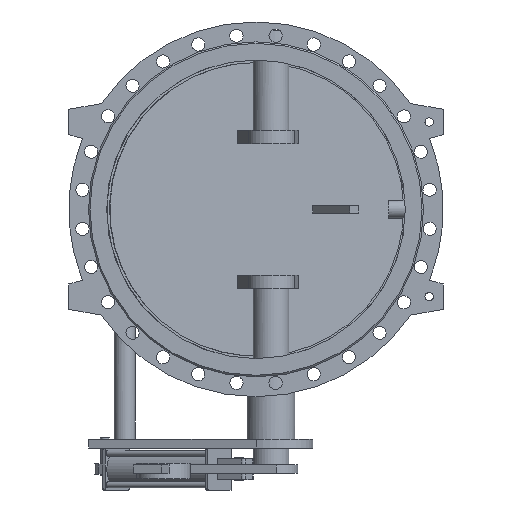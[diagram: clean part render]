
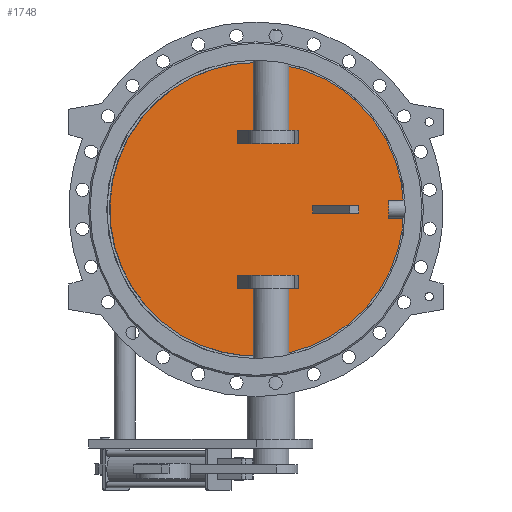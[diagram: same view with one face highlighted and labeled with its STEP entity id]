
A CAD part, front view. The second image highlights one B-rep face of the part: STEP entity #1748.
In plain terms, the highlighted planar face has unit normal (0.131, -0.991, 0).
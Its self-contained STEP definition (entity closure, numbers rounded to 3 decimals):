
#1748=ADVANCED_FACE('',(#3909,#3911,#3913,#3915),#3917,.T.);
#3909=FACE_BOUND('',#3910,.T.);
#3910=EDGE_LOOP('',(#5098));
#3911=FACE_BOUND('',#3912,.T.);
#3912=EDGE_LOOP('',(#5099,#5100,#5101,#5102));
#3913=FACE_BOUND('',#3914,.T.);
#3914=EDGE_LOOP('',(#5103,#5104,#5105,#5106));
#3915=FACE_BOUND('',#3916,.T.);
#3916=EDGE_LOOP('',(#5107,#5108,#5109,#5110));
#3917=PLANE('',#3918);
#3918=AXIS2_PLACEMENT_3D('',#3919,#3920,#3921);
#3919=CARTESIAN_POINT('',(-1.272,9.66,0.));
#3920=DIRECTION('',(0.131,-0.991,0.));
#3921=DIRECTION('',(0.,0.,-1.));
#5098=ORIENTED_EDGE('',*,*,#5631,.T.);
#5099=ORIENTED_EDGE('',*,*,#5648,.F.);
#5100=ORIENTED_EDGE('',*,*,#5649,.F.);
#5101=ORIENTED_EDGE('',*,*,#5650,.F.);
#5102=ORIENTED_EDGE('',*,*,#5651,.F.);
#5103=ORIENTED_EDGE('',*,*,#5652,.F.);
#5104=ORIENTED_EDGE('',*,*,#5653,.F.);
#5105=ORIENTED_EDGE('',*,*,#5654,.F.);
#5106=ORIENTED_EDGE('',*,*,#5655,.F.);
#5107=ORIENTED_EDGE('',*,*,#5656,.F.);
#5108=ORIENTED_EDGE('',*,*,#5657,.F.);
#5109=ORIENTED_EDGE('',*,*,#5658,.F.);
#5110=ORIENTED_EDGE('',*,*,#5659,.F.);
#5631=EDGE_CURVE('',#6439,#6439,#6440,.T.);
#5648=EDGE_CURVE('',#6473,#6474,#6475,.T.);
#5649=EDGE_CURVE('',#6476,#6473,#6477,.F.);
#5650=EDGE_CURVE('',#6478,#6476,#6479,.T.);
#5651=EDGE_CURVE('',#6474,#6478,#6480,.T.);
#5652=EDGE_CURVE('',#6481,#6482,#6483,.F.);
#5653=EDGE_CURVE('',#6484,#6481,#6485,.T.);
#5654=EDGE_CURVE('',#6486,#6484,#6487,.T.);
#5655=EDGE_CURVE('',#6482,#6486,#6488,.T.);
#5656=EDGE_CURVE('',#6489,#6490,#6491,.T.);
#5657=EDGE_CURVE('',#6492,#6489,#6493,.F.);
#5658=EDGE_CURVE('',#6494,#6492,#6495,.F.);
#5659=EDGE_CURVE('',#6490,#6494,#6496,.F.);
#6439=VERTEX_POINT('',#9693);
#6440=B_SPLINE_CURVE_WITH_KNOTS('',3,
(#9694,#9695,#9696,#9697,#9698,#9699,#9700,#9701,#9702,#9703,#9704,#9705,#9706,#9707,
#9708,#9709,#9710,#9711,#9712,#9713,#9714,#9715,#9716,#9717,#9718,#9719,#9720,#9721,
#9722,#9723,#9724,#9725,#9726,#9727,#9728,#9729,#9730,#9731,#9732,#9733,#9734,#9735,
#9736,#9737,#9738,#9739,#9740,#9741,#9742,#9743,#9744),
.UNSPECIFIED.,.T.,.F.,
(4,1,1,1,1,1,1,1,1,1,1,1,1,1,1,1,1,1,1,1,1,1,1,1,1,1,1,1,1,1,1,1,1,1,1,1,1,1,1,1,
1,1,1,1,1,1,1,1,4),
(0.,0.021,0.042,0.063,0.084,
0.105,0.126,0.147,0.168,0.189,
0.211,0.232,0.253,0.274,0.295,
0.316,0.337,0.358,0.379,0.4,
0.421,0.442,0.463,0.484,0.505,
0.527,0.548,0.569,0.59,0.611,
0.632,0.653,0.674,0.695,0.716,
0.737,0.758,0.779,0.8,0.821,
0.842,0.864,0.885,0.906,0.927,
0.948,0.969,0.986,1.),
.UNSPECIFIED.);
#6473=VERTEX_POINT('',#10176);
#6474=VERTEX_POINT('',#10177);
#6475=LINE('',#10178,#10179);
#6476=VERTEX_POINT('',#10181);
#6477=LINE('',#10182,#10183);
#6478=VERTEX_POINT('',#10185);
#6479=LINE('',#10186,#10187);
#6480=LINE('',#10189,#10190);
#6481=VERTEX_POINT('',#10192);
#6482=VERTEX_POINT('',#10193);
#6483=LINE('',#10194,#10195);
#6484=VERTEX_POINT('',#10197);
#6485=LINE('',#10198,#10199);
#6486=VERTEX_POINT('',#10201);
#6487=LINE('',#10202,#10203);
#6488=LINE('',#10205,#10206);
#6489=VERTEX_POINT('',#10208);
#6490=VERTEX_POINT('',#10209);
#6491=LINE('',#10210,#10211);
#6492=VERTEX_POINT('',#10213);
#6493=LINE('',#10214,#10215);
#6494=VERTEX_POINT('',#10217);
#6495=LINE('',#10218,#10219);
#6496=LINE('',#10221,#10222);
#9693=CARTESIAN_POINT('',(2.611,10.171,492.));
#9694=CARTESIAN_POINT('',(2.611,10.171,492.));
#9695=CARTESIAN_POINT('',(-19.012,7.324,492.));
#9696=CARTESIAN_POINT('',(-62.309,1.624,489.142));
#9697=CARTESIAN_POINT('',(-126.205,-6.788,476.332));
#9698=CARTESIAN_POINT('',(-187.936,-14.915,455.176));
#9699=CARTESIAN_POINT('',(-246.369,-22.608,426.038));
#9700=CARTESIAN_POINT('',(-300.428,-29.725,389.455));
#9701=CARTESIAN_POINT('',(-349.181,-36.143,346.062));
#9702=CARTESIAN_POINT('',(-391.774,-41.751,296.622));
#9703=CARTESIAN_POINT('',(-427.467,-46.45,242.002));
#9704=CARTESIAN_POINT('',(-455.638,-50.159,183.158));
#9705=CARTESIAN_POINT('',(-475.798,-52.813,121.116));
#9706=CARTESIAN_POINT('',(-487.596,-54.366,56.961));
#9707=CARTESIAN_POINT('',(-490.827,-54.791,-8.188));
#9708=CARTESIAN_POINT('',(-485.436,-54.081,-73.196));
#9709=CARTESIAN_POINT('',(-471.514,-52.249,-136.927));
#9710=CARTESIAN_POINT('',(-449.304,-49.325,-198.269));
#9711=CARTESIAN_POINT('',(-419.191,-45.36,-256.152));
#9712=CARTESIAN_POINT('',(-381.699,-40.424,-309.562));
#9713=CARTESIAN_POINT('',(-337.48,-34.603,-357.565));
#9714=CARTESIAN_POINT('',(-287.304,-27.997,-399.319));
#9715=CARTESIAN_POINT('',(-232.047,-20.722,-434.089));
#9716=CARTESIAN_POINT('',(-172.677,-12.906,-461.265));
#9717=CARTESIAN_POINT('',(-110.233,-4.685,-480.368));
#9718=CARTESIAN_POINT('',(-45.809,3.797,-491.059));
#9719=CARTESIAN_POINT('',(19.464,12.39,-493.152));
#9720=CARTESIAN_POINT('',(84.44,20.944,-486.61));
#9721=CARTESIAN_POINT('',(147.979,29.309,-471.547));
#9722=CARTESIAN_POINT('',(208.967,37.338,-448.231));
#9723=CARTESIAN_POINT('',(266.336,44.891,-417.073));
#9724=CARTESIAN_POINT('',(319.083,51.836,-378.622));
#9725=CARTESIAN_POINT('',(366.287,58.05,-333.553));
#9726=CARTESIAN_POINT('',(407.125,63.426,-282.656));
#9727=CARTESIAN_POINT('',(440.885,67.871,-226.824));
#9728=CARTESIAN_POINT('',(466.982,71.307,-167.032));
#9729=CARTESIAN_POINT('',(484.96,73.674,-104.325));
#9730=CARTESIAN_POINT('',(494.509,74.931,-39.798));
#9731=CARTESIAN_POINT('',(495.461,75.056,25.425));
#9732=CARTESIAN_POINT('',(487.8,74.048,90.205));
#9733=CARTESIAN_POINT('',(471.659,71.923,153.412));
#9734=CARTESIAN_POINT('',(447.318,68.718,213.942));
#9735=CARTESIAN_POINT('',(415.199,64.489,270.739));
#9736=CARTESIAN_POINT('',(375.861,59.31,322.807));
#9737=CARTESIAN_POINT('',(329.986,53.271,369.238));
#9738=CARTESIAN_POINT('',(278.391,46.478,409.203));
#9739=CARTESIAN_POINT('',(222.038,39.059,441.974));
#9740=CARTESIAN_POINT('',(161.743,31.121,467.086));
#9741=CARTESIAN_POINT('',(102.274,23.292,483.041));
#9742=CARTESIAN_POINT('',(48.806,16.253,490.619));
#9743=CARTESIAN_POINT('',(16.729,12.03,492.));
#9744=CARTESIAN_POINT('',(2.611,10.171,492.));
#10176=CARTESIAN_POINT('',(318.888,51.81,-12.5));
#10177=CARTESIAN_POINT('',(318.888,51.81,12.5));
#10178=CARTESIAN_POINT('',(318.888,51.81,-12.5));
#10179=VECTOR('',#10180,1.);
#10180=DIRECTION('',(0.,0.,1.));
#10181=CARTESIAN_POINT('',(190.,34.841,-12.5));
#10182=CARTESIAN_POINT('',(318.888,51.81,-12.5));
#10183=VECTOR('',#10184,1.);
#10184=DIRECTION('',(-0.991,-0.131,0.));
#10185=CARTESIAN_POINT('',(190.,34.841,12.5));
#10186=CARTESIAN_POINT('',(190.,34.841,12.5));
#10187=VECTOR('',#10188,1.);
#10188=DIRECTION('',(0.,0.,-1.));
#10189=CARTESIAN_POINT('',(318.888,51.81,12.5));
#10190=VECTOR('',#10191,1.);
#10191=DIRECTION('',(-0.991,-0.131,0.));
#10192=CARTESIAN_POINT('',(-62.127,1.648,-265.));
#10193=CARTESIAN_POINT('',(142.351,28.568,-265.));
#10194=CARTESIAN_POINT('',(142.351,28.568,-265.));
#10195=VECTOR('',#10196,1.);
#10196=DIRECTION('',(-0.991,-0.131,0.));
#10197=CARTESIAN_POINT('',(-62.127,1.648,-220.));
#10198=CARTESIAN_POINT('',(-62.127,1.648,-220.));
#10199=VECTOR('',#10200,1.);
#10200=DIRECTION('',(0.,0.,-1.));
#10201=CARTESIAN_POINT('',(142.351,28.568,-220.));
#10202=CARTESIAN_POINT('',(142.351,28.568,-220.));
#10203=VECTOR('',#10204,1.);
#10204=DIRECTION('',(-0.991,-0.131,0.));
#10205=CARTESIAN_POINT('',(142.351,28.568,-265.));
#10206=VECTOR('',#10207,1.);
#10207=DIRECTION('',(0.,0.,1.));
#10208=CARTESIAN_POINT('',(142.351,28.568,265.));
#10209=CARTESIAN_POINT('',(-62.127,1.648,265.));
#10210=CARTESIAN_POINT('',(142.351,28.568,265.));
#10211=VECTOR('',#10212,1.);
#10212=DIRECTION('',(-0.991,-0.131,0.));
#10213=CARTESIAN_POINT('',(142.351,28.568,220.));
#10214=CARTESIAN_POINT('',(142.351,28.568,265.));
#10215=VECTOR('',#10216,1.);
#10216=DIRECTION('',(0.,0.,-1.));
#10217=CARTESIAN_POINT('',(-62.127,1.648,220.));
#10218=CARTESIAN_POINT('',(142.351,28.568,220.));
#10219=VECTOR('',#10220,1.);
#10220=DIRECTION('',(-0.991,-0.131,0.));
#10221=CARTESIAN_POINT('',(-62.127,1.648,220.));
#10222=VECTOR('',#10223,1.);
#10223=DIRECTION('',(0.,0.,1.));
